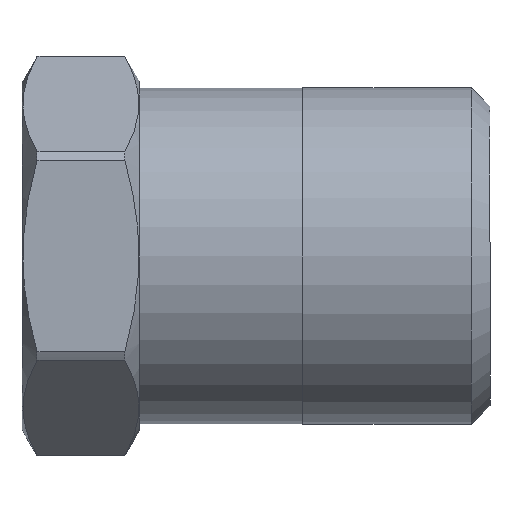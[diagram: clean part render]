
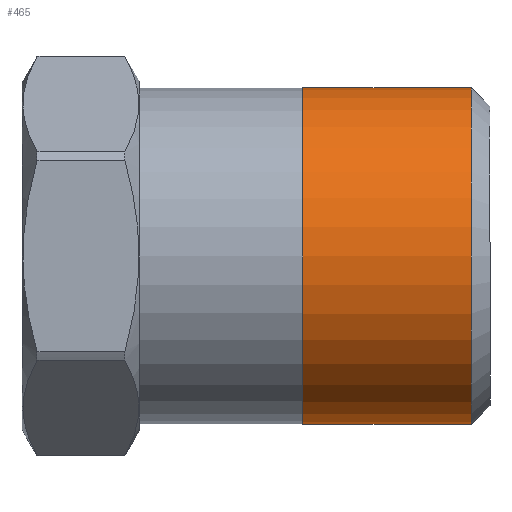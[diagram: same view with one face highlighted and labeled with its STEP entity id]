
A CAD part, left-side view. The second image highlights one B-rep face of the part: STEP entity #465.
In plain terms, the highlighted cylindrical face has radius 6.858 mm (diameter 13.716 mm), a full revolution.
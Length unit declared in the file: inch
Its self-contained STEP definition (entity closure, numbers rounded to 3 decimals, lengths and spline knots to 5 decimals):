
#28=CYLINDRICAL_SURFACE('',#536,0.27);
#59=CIRCLE('',#534,0.27);
#60=CIRCLE('',#535,0.27);
#61=CIRCLE('',#537,0.27);
#62=CIRCLE('',#538,0.27);
#92=FACE_OUTER_BOUND('',#121,.T.);
#121=EDGE_LOOP('',(#412,#413,#414,#415,#416,#417));
#146=LINE('',#843,#167);
#167=VECTOR('',#673,0.27);
#222=VERTEX_POINT('',#836);
#223=VERTEX_POINT('',#838);
#224=VERTEX_POINT('',#842);
#225=VERTEX_POINT('',#844);
#288=EDGE_CURVE('',#222,#223,#59,.T.);
#289=EDGE_CURVE('',#223,#222,#60,.T.);
#290=EDGE_CURVE('',#223,#224,#146,.T.);
#291=EDGE_CURVE('',#224,#225,#61,.T.);
#292=EDGE_CURVE('',#225,#224,#62,.T.);
#412=ORIENTED_EDGE('',*,*,#288,.F.);
#413=ORIENTED_EDGE('',*,*,#289,.F.);
#414=ORIENTED_EDGE('',*,*,#290,.T.);
#415=ORIENTED_EDGE('',*,*,#291,.T.);
#416=ORIENTED_EDGE('',*,*,#292,.T.);
#417=ORIENTED_EDGE('',*,*,#290,.F.);
#465=ADVANCED_FACE('',(#92),#28,.T.);
#534=AXIS2_PLACEMENT_3D('',#839,#667,#668);
#535=AXIS2_PLACEMENT_3D('',#840,#669,#670);
#536=AXIS2_PLACEMENT_3D('',#841,#671,#672);
#537=AXIS2_PLACEMENT_3D('',#845,#674,#675);
#538=AXIS2_PLACEMENT_3D('',#846,#676,#677);
#667=DIRECTION('center_axis',(0.,-1.,0.));
#668=DIRECTION('ref_axis',(0.,0.,1.));
#669=DIRECTION('center_axis',(0.,-1.,0.));
#670=DIRECTION('ref_axis',(0.,0.,1.));
#671=DIRECTION('center_axis',(0.,-1.,0.));
#672=DIRECTION('ref_axis',(0.,0.,-1.));
#673=DIRECTION('',(0.,1.,0.));
#674=DIRECTION('center_axis',(0.,-1.,0.));
#675=DIRECTION('ref_axis',(1.,0.,0.));
#676=DIRECTION('center_axis',(0.,-1.,0.));
#677=DIRECTION('ref_axis',(1.,0.,0.));
#836=CARTESIAN_POINT('',(0.,0.03,-0.27));
#838=CARTESIAN_POINT('',(0.,0.03,0.27));
#839=CARTESIAN_POINT('Origin',(0.,0.03,0.));
#840=CARTESIAN_POINT('Origin',(0.,0.03,0.));
#841=CARTESIAN_POINT('Origin',(0.,0.15,0.));
#842=CARTESIAN_POINT('',(0.,0.3,0.27));
#843=CARTESIAN_POINT('',(0.,0.15,0.27));
#844=CARTESIAN_POINT('',(0.,0.3,-0.27));
#845=CARTESIAN_POINT('Origin',(0.,0.3,0.));
#846=CARTESIAN_POINT('Origin',(0.,0.3,0.));
